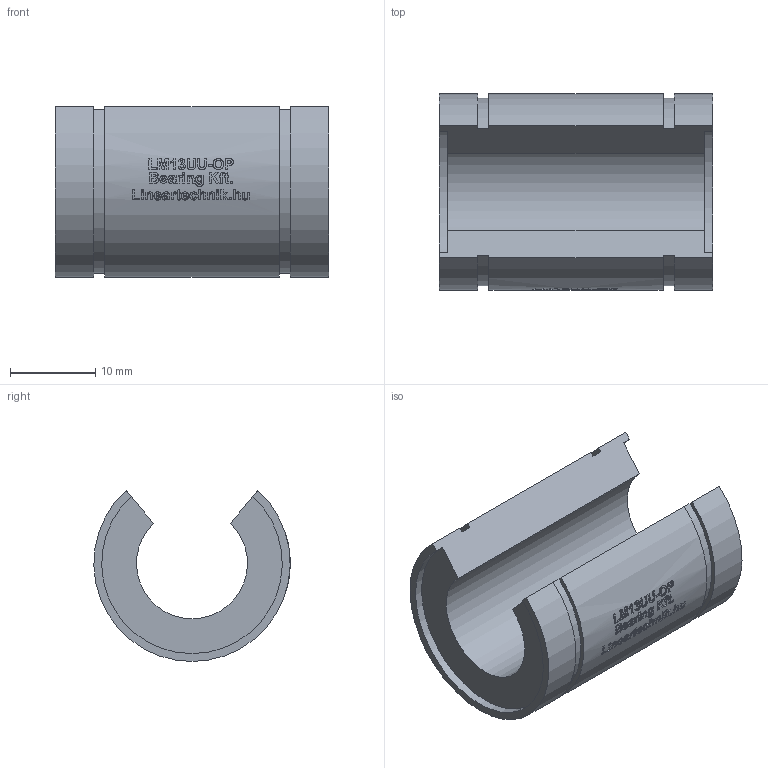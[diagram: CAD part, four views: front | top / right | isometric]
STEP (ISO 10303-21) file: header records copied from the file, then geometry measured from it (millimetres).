
FILE_DESCRIPTION(/* description */ (''),/* implementation_level */ '2;1');
FILE_NAME(/* name */ 'LM13UU-OP',/* time_stamp */ '2019-07-10T16:11:07+02:00',/* author */ ('VĂ©gh MĂˇtĂ©'),/* organization */ ('Bearing Kft'),/* preprocessor_version */ 'ST-DEVELOPER v16.7',/* originating_system */ 'DEX',/* authorisation */ $);
FILE_SCHEMA (('AUTOMOTIVE_DESIGN {1 0 10303 214 3 1 1}'));
Length unit declared in the file: millimetre
Products named in the file (1): LM13UU-OP
Bounding box: 32 x 23 x 20.03 mm (x, y, z)
Volume: 6493.4 mm3; surface area: 3650.8 mm2
Topology: 1 solids, 1 shells, 326 faces, 826 edges, 551 vertices
Faces by surface type: plane 170, bspline 99, cylinder 57
Entity records: 15359 total; most frequent: CARTESIAN_POINT 7983, ORIENTED_EDGE 1646, DIRECTION 1240, EDGE_CURVE 823, VERTEX_POINT 551, LINE 462, VECTOR 462, AXIS2_PLACEMENT_3D 389
